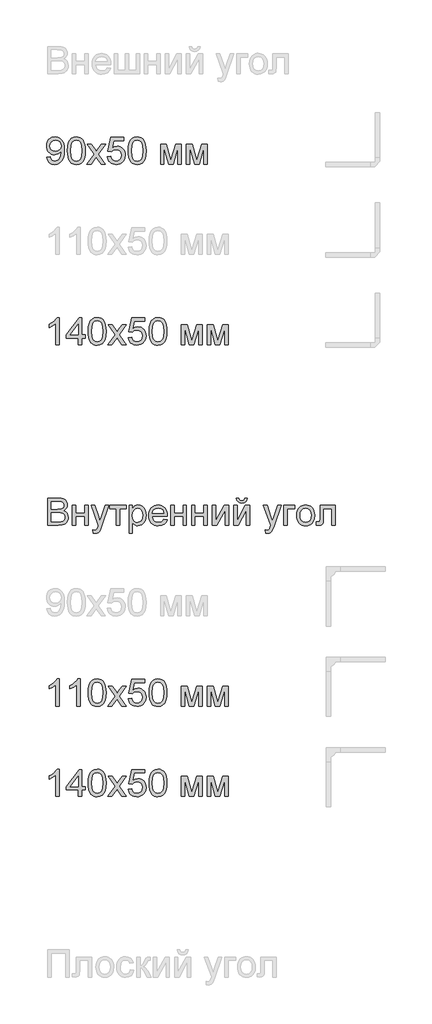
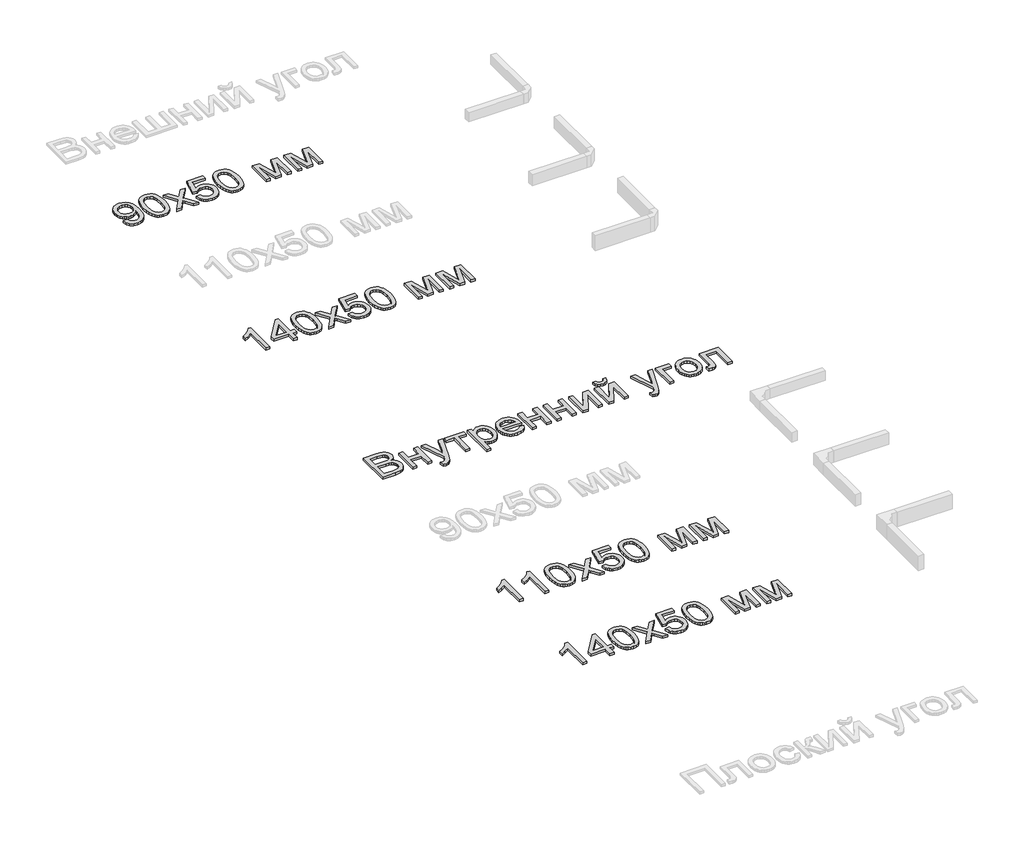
# One storey, part 88 of 168: 5 proxies.
"""IFC4 building model written with IfcOpenShell, lengths in millimetres."""

from ifc_helpers import new_model, si_unit, origin, origin_with_axes, place, context, project, spatial, polyline, outline, extrude, element, save

model = new_model("IFC4")

# Units and contexts
model_context = context("Model", 3, world=origin())
ifc_project = project(units=[si_unit("LENGTHUNIT", "METRE", prefix="MILLI")], contexts=[model_context])

# Site, building, storey
site = spatial("IfcSite", under=ifc_project)
building = spatial("IfcBuilding", under=site)
storey = spatial("IfcBuildingStorey", under=building, Name="Этаж 01", Elevation=0.0)

# Proxies
placement = place(None, origin())
element("IfcBuildingElementProxy", 1, Name="300 мм Arial 2", ObjectType="300 мм Arial 2", at=placement, inside=storey, context=model_context, shape_type="SweptSolid", body=[
    extrude(outline(polyline([(11069.3999525, -8073.063449), (11107.0710688, -8068.3545594), (11113.5090037, -8089.7377004), (11123.9936406, -8104.2966303), (11138.267462, -8112.6567487), (11156.0729505, -8115.4434548), (11172.0482262, -8113.6500301), (11186.5703679, -8108.2697559), (11198.6368974, -8099.8912435), (11207.2453361, -8089.1031039), (11219.5693829, -8056.3616064), (11225.0140364, -8012.6572253), (11224.7933072, -8005.2995854), (11211.7426935, -8021.2288758), (11194.6637718, -8033.8472283), (11174.7889471, -8042.0693909), (11153.3506238, -8044.8101117), (11135.455464, -8043.1362486), (11118.9996425, -8038.1146594), (11103.9831593, -8029.745344), (11090.4060144, -8018.0283025), (11079.1557231, -8003.5751386), (11071.1198008, -7986.9974562), (11066.2982474, -7968.2952553), (11064.6910629, -7947.4685358), (11066.3764223, -7925.9474391), (11071.4325005, -7906.6336343), (11079.8592975, -7889.5271216), (11091.6568132, -7874.6279008), (11105.9927147, -7862.5567728), (11122.0346689, -7853.9345385), (11139.782676, -7848.761198), (11159.2367357, -7847.0367511), (11187.3337231, -7850.9730885), (11212.9107188, -7862.7821005), (11234.3030568, -7881.8751761), (11249.8460711, -7907.6637039), (11259.3098354, -7943.3114693), (11262.4644236, -7991.9822572), (11259.3190325, -8043.5869041), (11249.8828593, -8083.4745094), (11234.2386775, -8113.447695), (11212.4692604, -8135.3090825), (11185.5127072, -8148.663199), (11154.307117, -8153.1145711), (11122.0990483, -8147.8630556), (11096.4024909, -8132.1085092), (11078.4314555, -8106.8442132), (11069.3999525, -8073.063449)]), holes=[polyline([(11224.7933072, -7946.585619), (11220.7282112, -7921.0546085), (11208.5329231, -7901.40971), (11189.6053944, -7888.8833281), (11165.3435768, -7884.7078674), (11140.1804484, -7889.2052248), (11120.020515, -7902.697297), (11106.7767632, -7923.344674), (11102.3621793, -7949.3079458), (11106.5376399, -7972.585679), (11119.0640218, -7991.0625522), (11138.7273145, -8003.1198846), (11164.3135072, -8007.1389954), (11188.3821868, -8003.1198846), (11207.7603709, -7991.0625522), (11220.5350732, -7971.9050973), (11224.7933072, -7946.585619)])]), origin_with_axes(), (0.0, 0.0, 1.0), 20.0),
    extrude(outline(polyline([(11295.4266503, -8000.1492375), (11298.1949623, -7951.9107109), (11306.4998984, -7913.4394512), (11320.258685, -7884.1468474), (11339.3885487, -7863.4442881), (11364.0274454, -7851.1386354), (11394.3133306, -7847.0367511), (11417.5266845, -7849.4647723), (11438.3120172, -7856.7488358), (11455.6944415, -7868.6038331), (11468.6990701, -7884.7446556), (11478.5215193, -7905.0333477), (11486.3574058, -7929.3319534), (11491.4893597, -7960.1880558), (11493.2000109, -8000.1492375), (11490.4592901, -8048.1118526), (11482.2371275, -8086.4911418), (11468.5611143, -8115.8113368), (11449.4588417, -8136.5966695), (11424.7647628, -8148.9850957), (11394.3133306, -8153.1145711), (11373.5647861, -8151.3211464), (11355.1706863, -8145.9408722), (11339.1310313, -8136.9737486), (11325.4458211, -8124.4197755), (11312.3124339, -8101.7260549), (11302.931443, -8073.4497251), (11297.3028485, -8039.5907859), (11295.4266503, -8000.1492375)]), holes=[polyline([(11333.0977666, -8000.0756611), (11337.5123506, -8059.3322535), (11343.0305805, -8079.6002522), (11350.7561024, -8093.6280525), (11370.4745773, -8109.9896042), (11394.3133306, -8115.4434548), (11418.1520839, -8109.9712101), (11437.8705589, -8093.5544761), (11445.5960808, -8079.5036831), (11451.1143107, -8059.240283), (11455.5288946, -8000.0756611), (11451.2614635, -7942.152641), (11445.9271745, -7921.9513209), (11438.45917, -7907.5901275), (11418.7774833, -7890.4284325), (11393.8718722, -7884.7078674), (11370.2906363, -7889.7478508), (11351.3447136, -7904.8678008), (11343.3616743, -7920.5027856), (11337.6595034, -7941.5824239), (11333.0977666, -8000.0756611)])]), origin_with_axes(), (0.0, 0.0, 1.0), 20.0),
    extrude(outline(polyline([(11512.0355691, -8148.4056816), (11592.5281496, -8037.1581662), (11516.7444586, -7927.0878733), (11562.0675204, -7927.0878733), (11598.6349907, -7980.0628806), (11615.7047153, -8005.0788562), (11630.4935715, -7984.6246173), (11672.1378134, -7927.0878733), (11717.4608752, -7927.0878733), (11637.8512114, -8037.1581662), (11714.5178192, -8148.4056816), (11669.1947574, -8148.4056816), (11623.0623552, -8081.5247348), (11614.6010693, -8069.3110526), (11557.3586309, -8148.4056816), (11512.0355691, -8148.4056816)])), origin_with_axes(), (0.0, 0.0, 1.0), 20.0),
    extrude(outline(polyline([(11738.0622669, -8068.3545594), (11775.7333832, -8063.6456699), (11782.6495647, -8086.2612155), (11794.7160942, -8102.4572204), (11811.8777893, -8112.1968962), (11834.0794677, -8115.4434548), (11861.0820061, -8110.9277033), (11881.3155158, -8097.3804488), (11893.9522624, -8076.3651899), (11898.1645112, -8049.4454249), (11894.2189768, -8024.0983554), (11882.3823736, -8004.7109743), (11862.5627311, -7992.4053215), (11834.6680789, -7988.3034373), (11816.3935407, -7989.9405121), (11801.5954875, -7994.8517368), (11780.4422728, -8011.847885), (11742.7711565, -8007.1389954), (11775.7333832, -7851.7456407), (11921.7089589, -7851.7456407), (11921.7089589, -7889.416757), (11806.1940124, -7889.416757), (11790.080781, -7972.4109351), (11816.991349, -7956.0769745), (11845.1895039, -7950.632321), (11863.5353192, -7952.3199796), (11880.3866138, -7957.3829556), (11895.7433878, -7965.8212488), (11909.6056413, -7977.6348594), (11921.0812603, -7992.1018189), (11929.278131, -8008.5001588), (11934.1962534, -8026.8298792), (11935.8356275, -8047.0909801), (11929.9311215, -8084.7620964), (11922.550489, -8101.5559095), (11912.2176034, -8116.9885592), (11896.5642245, -8132.7936894), (11878.2988835, -8144.0830681), (11857.4215803, -8150.8566954), (11833.9323149, -8153.1145711), (11796.9325832, -8147.3112326), (11781.2539124, -8140.0570595), (11767.4560383, -8129.9012172), (11755.9758208, -8117.3495434), (11747.2501197, -8102.9078758), (11738.0622669, -8068.3545594)])), origin_with_axes(), (0.0, 0.0, 1.0), 20.0),
    extrude(outline(polyline([(11968.7978543, -8000.1492375), (11971.5661663, -7951.9107109), (11979.8711023, -7913.4394512), (11993.629889, -7884.1468474), (12012.7597527, -7863.4442881), (12037.3986493, -7851.1386354), (12067.6845346, -7847.0367511), (12090.8978885, -7849.4647723), (12111.6832212, -7856.7488358), (12129.0656455, -7868.6038331), (12142.070274, -7884.7446556), (12151.8927233, -7905.0333477), (12159.7286098, -7929.3319534), (12164.8605636, -7960.1880558), (12166.5712149, -8000.1492375), (12163.830494, -8048.1118526), (12155.6083314, -8086.4911418), (12141.9323183, -8115.8113368), (12122.8300457, -8136.5966695), (12098.1359667, -8148.9850957), (12067.6845346, -8153.1145711), (12046.9359901, -8151.3211464), (12028.5418903, -8145.9408722), (12012.5022353, -8136.9737486), (11998.8170251, -8124.4197755), (11985.6836379, -8101.7260549), (11976.302647, -8073.4497251), (11970.6740525, -8039.5907859), (11968.7978543, -8000.1492375)]), holes=[polyline([(12006.4689706, -8000.0756611), (12010.8835545, -8059.3322535), (12016.4017845, -8079.6002522), (12024.1273064, -8093.6280525), (12043.8457813, -8109.9896042), (12067.6845346, -8115.4434548), (12091.5232879, -8109.9712101), (12111.2417628, -8093.5544761), (12118.9672847, -8079.5036831), (12124.4855147, -8059.240283), (12128.9000986, -8000.0756611), (12124.6326675, -7942.152641), (12119.2983785, -7921.9513209), (12111.830374, -7907.5901275), (12092.1486873, -7890.4284325), (12067.2430762, -7884.7078674), (12043.6618403, -7889.7478508), (12024.7159176, -7904.8678008), (12016.7328783, -7920.5027856), (12011.0307073, -7941.5824239), (12006.4689706, -8000.0756611)])]), origin_with_axes(), (0.0, 0.0, 1.0), 20.0),
    extrude(outline(polyline([(12326.6734592, -7927.0878733), (12391.4942668, -7927.0878733), (12441.4526417, -8104.2598421), (12495.3105658, -7927.0878733), (12557.4090466, -7927.0878733), (12557.4090466, -8148.4056816), (12519.7379303, -8148.4056816), (12519.7379303, -7970.2036431), (12465.5857006, -8148.4056816), (12416.1423604, -8148.4056816), (12364.3445755, -7961.6687808), (12364.3445755, -8148.4056816), (12326.6734592, -8148.4056816), (12326.6734592, -7927.0878733)])), origin_with_axes(), (0.0, 0.0, 1.0), 20.0),
    extrude(outline(polyline([(12613.915721, -7927.0878733), (12678.7365286, -7927.0878733), (12728.6949035, -8104.2598421), (12782.5528276, -7927.0878733), (12844.6513084, -7927.0878733), (12844.6513084, -8148.4056816), (12806.9801921, -8148.4056816), (12806.9801921, -7970.2036431), (12752.8279624, -8148.4056816), (12703.3846223, -8148.4056816), (12651.5868373, -7961.6687808), (12651.5868373, -8148.4056816), (12613.915721, -8148.4056816), (12613.915721, -7927.0878733)])), origin_with_axes(), (0.0, 0.0, 1.0), 20.0),
])
element("IfcBuildingElementProxy", 2, Name="300 мм Arial 2", ObjectType="300 мм Arial 2", at=placement, inside=storey, context=model_context, shape_type="SweptSolid", body=[
    extrude(outline(polyline([(11205.9577491, -10148.4056816), (11168.2866328, -10148.4056816), (11168.2866328, -9913.5498158), (11132.6020793, -9938.9704617), (11092.9444002, -9957.9899609), (11092.9444002, -9922.3789837), (11122.5313096, -9906.2841464), (11148.1634877, -9887.1358886), (11168.3694062, -9866.7736202), (11181.6775374, -9847.0367511), (11205.9577491, -9847.0367511), (11205.9577491, -10148.4056816)])), origin_with_axes(), (0.0, 0.0, 1.0), 20.0),
    extrude(outline(polyline([(11417.8577783, -10148.4056816), (11417.8577783, -10077.7723385), (11281.2999817, -10077.7723385), (11281.2999817, -10040.1012222), (11427.2755574, -9851.7456407), (11455.5288946, -9851.7456407), (11455.5288946, -10040.1012222), (11493.2000109, -10040.1012222), (11493.2000109, -10077.7723385), (11455.5288946, -10077.7723385), (11455.5288946, -10148.4056816), (11417.8577783, -10148.4056816)]), holes=[polyline([(11417.8577783, -10040.1012222), (11417.8577783, -9923.7033589), (11327.6531131, -10040.1012222), (11417.8577783, -10040.1012222)])]), origin_with_axes(), (0.0, 0.0, 1.0), 20.0),
    extrude(outline(polyline([(11526.1622377, -10000.1492375), (11528.9305497, -9951.9107109), (11537.2354858, -9913.4394512), (11550.9942724, -9884.1468474), (11570.1241361, -9863.4442881), (11594.7630327, -9851.1386354), (11625.048918, -9847.0367511), (11648.2622719, -9849.4647723), (11669.0476046, -9856.7488358), (11686.4300289, -9868.6038331), (11699.4346574, -9884.7446556), (11709.2571067, -9905.0333477), (11717.0929932, -9929.3319534), (11722.224947, -9960.1880558), (11723.9355983, -10000.1492375), (11721.1948774, -10048.1118526), (11712.9727148, -10086.4911418), (11699.2967017, -10115.8113368), (11680.1944291, -10136.5966695), (11655.5003502, -10148.9850957), (11625.048918, -10153.1145711), (11604.3003735, -10151.3211464), (11585.9062737, -10145.9408722), (11569.8666187, -10136.9737486), (11556.1814085, -10124.4197755), (11543.0480213, -10101.7260549), (11533.6670304, -10073.4497251), (11528.0384359, -10039.5907859), (11526.1622377, -10000.1492375)]), holes=[polyline([(11563.833354, -10000.0756611), (11568.2479379, -10059.3322535), (11573.7661679, -10079.6002522), (11581.4916898, -10093.6280525), (11601.2101647, -10109.9896042), (11625.048918, -10115.4434548), (11648.8876713, -10109.9712101), (11668.6061462, -10093.5544761), (11676.3316681, -10079.5036831), (11681.8498981, -10059.240283), (11686.264482, -10000.0756611), (11681.9970509, -9942.152641), (11676.6627619, -9921.9513209), (11669.1947574, -9907.5901275), (11649.5130707, -9890.4284325), (11624.6074596, -9884.7078674), (11601.0262237, -9889.7478508), (11582.080301, -9904.8678008), (11574.0972617, -9920.5027856), (11568.3950907, -9941.5824239), (11563.833354, -10000.0756611)])]), origin_with_axes(), (0.0, 0.0, 1.0), 20.0),
    extrude(outline(polyline([(11742.7711565, -10148.4056816), (11823.263737, -10037.1581662), (11747.480046, -9927.0878733), (11792.8031078, -9927.0878733), (11829.3705781, -9980.0628806), (11846.4403027, -10005.0788562), (11861.2291589, -9984.6246173), (11902.8734008, -9927.0878733), (11948.1964626, -9927.0878733), (11868.5867988, -10037.1581662), (11945.2534066, -10148.4056816), (11899.9303448, -10148.4056816), (11853.7979426, -10081.5247348), (11845.3366567, -10069.3110526), (11788.0942183, -10148.4056816), (11742.7711565, -10148.4056816)])), origin_with_axes(), (0.0, 0.0, 1.0), 20.0),
    extrude(outline(polyline([(11968.7978543, -10068.3545594), (12006.4689706, -10063.6456699), (12013.3851521, -10086.2612155), (12025.4516816, -10102.4572204), (12042.6133766, -10112.1968962), (12064.815055, -10115.4434548), (12091.8175935, -10110.9277033), (12112.0511032, -10097.3804488), (12124.6878498, -10076.3651899), (12128.9000986, -10049.4454249), (12124.9545642, -10024.0983554), (12113.117961, -10004.7109743), (12093.2983185, -9992.4053215), (12065.4036662, -9988.3034373), (12047.1291281, -9989.9405121), (12032.3310749, -9994.8517368), (12011.1778601, -10011.847885), (11973.5067438, -10007.1389954), (12006.4689706, -9851.7456407), (12152.4445463, -9851.7456407), (12152.4445463, -9889.416757), (12036.9295998, -9889.416757), (12020.8163684, -9972.4109351), (12047.7269364, -9956.0769745), (12075.9250913, -9950.632321), (12094.2709065, -9952.3199796), (12111.1222012, -9957.3829556), (12126.4789752, -9965.8212488), (12140.3412286, -9977.6348594), (12151.8168476, -9992.1018189), (12160.0137183, -10008.5001588), (12164.9318408, -10026.8298792), (12166.5712149, -10047.0909801), (12160.6667089, -10084.7620964), (12153.2860764, -10101.5559095), (12142.9531908, -10116.9885592), (12127.2998119, -10132.7936894), (12109.0344709, -10144.0830681), (12088.1571676, -10150.8566954), (12064.6679022, -10153.1145711), (12027.6681706, -10147.3112326), (12011.9894998, -10140.0570595), (11998.1916257, -10129.9012172), (11986.7114082, -10117.3495434), (11977.9857071, -10102.9078758), (11968.7978543, -10068.3545594)])), origin_with_axes(), (0.0, 0.0, 1.0), 20.0),
    extrude(outline(polyline([(12199.5334417, -10000.1492375), (12202.3017537, -9951.9107109), (12210.6066897, -9913.4394512), (12224.3654763, -9884.1468474), (12243.4953401, -9863.4442881), (12268.1342367, -9851.1386354), (12298.420122, -9847.0367511), (12321.6334759, -9849.4647723), (12342.4188086, -9856.7488358), (12359.8012329, -9868.6038331), (12372.8058614, -9884.7446556), (12382.6283107, -9905.0333477), (12390.4641972, -9929.3319534), (12395.596151, -9960.1880558), (12397.3068023, -10000.1492375), (12394.5660814, -10048.1118526), (12386.3439188, -10086.4911418), (12372.6679056, -10115.8113368), (12353.565633, -10136.5966695), (12328.8715541, -10148.9850957), (12298.420122, -10153.1145711), (12277.6715774, -10151.3211464), (12259.2774777, -10145.9408722), (12243.2378227, -10136.9737486), (12229.5526125, -10124.4197755), (12216.4192252, -10101.7260549), (12207.0382344, -10073.4497251), (12201.4096398, -10039.5907859), (12199.5334417, -10000.1492375)]), holes=[polyline([(12237.204558, -10000.0756611), (12241.6191419, -10059.3322535), (12247.1373718, -10079.6002522), (12254.8628937, -10093.6280525), (12274.5813687, -10109.9896042), (12298.420122, -10115.4434548), (12322.2588753, -10109.9712101), (12341.9773502, -10093.5544761), (12349.7028721, -10079.5036831), (12355.221102, -10059.240283), (12359.635686, -10000.0756611), (12355.3682548, -9942.152641), (12350.0339659, -9921.9513209), (12342.5659614, -9907.5901275), (12322.8842747, -9890.4284325), (12297.9786636, -9884.7078674), (12274.3974277, -9889.7478508), (12255.4515049, -9904.8678008), (12247.4684656, -9920.5027856), (12241.7662947, -9941.5824239), (12237.204558, -10000.0756611)])]), origin_with_axes(), (0.0, 0.0, 1.0), 20.0),
    extrude(outline(polyline([(12557.4090466, -9927.0878733), (12622.2298541, -9927.0878733), (12672.1882291, -10104.2598421), (12726.0461532, -9927.0878733), (12788.144634, -9927.0878733), (12788.144634, -10148.4056816), (12750.4735176, -10148.4056816), (12750.4735176, -9970.2036431), (12696.321288, -10148.4056816), (12646.8779478, -10148.4056816), (12595.0801629, -9961.6687808), (12595.0801629, -10148.4056816), (12557.4090466, -10148.4056816), (12557.4090466, -9927.0878733)])), origin_with_axes(), (0.0, 0.0, 1.0), 20.0),
    extrude(outline(polyline([(12844.6513084, -9927.0878733), (12909.472116, -9927.0878733), (12959.4304909, -10104.2598421), (13013.288415, -9927.0878733), (13075.3868958, -9927.0878733), (13075.3868958, -10148.4056816), (13037.7157795, -10148.4056816), (13037.7157795, -9970.2036431), (12983.5635498, -10148.4056816), (12934.1202096, -10148.4056816), (12882.3224247, -9961.6687808), (12882.3224247, -10148.4056816), (12844.6513084, -10148.4056816), (12844.6513084, -9927.0878733)])), origin_with_axes(), (0.0, 0.0, 1.0), 20.0),
])
element("IfcBuildingElementProxy", 3, Name="300 мм Arial 2", ObjectType="300 мм Arial 2", at=placement, inside=storey, context=model_context, shape_type="SweptSolid", body=[
    extrude(outline(polyline([(11078.8177316, -12148.4056816), (11078.8177316, -11847.0367511), (11193.8176433, -11847.0367511), (11225.4462978, -11849.2532401), (11250.1403767, -11855.9027072), (11269.0679054, -11867.1506992), (11283.3969091, -11883.162763), (11292.419215, -11901.9983212), (11295.4266503, -11921.7167961), (11292.8974616, -11939.8625756), (11285.3098955, -11956.9231031), (11272.6087696, -11971.849915), (11254.7389017, -11983.5945477), (11276.0852544, -11994.7413722), (11291.858195, -12011.7007322), (11301.5978708, -12033.3505876), (11304.8444294, -12058.5688983), (11302.6279404, -12079.5841573), (11295.9784733, -12099.072706), (11286.0548565, -12115.6457899), (11274.0159182, -12127.9146544), (11259.2730472, -12136.7990046), (11241.2376324, -12143.2185454), (11192.9347265, -12148.4056816), (11078.8177316, -12148.4056816)]), holes=[polyline([(11116.4888479, -11969.4678791), (11185.282781, -11969.4678791), (11225.4554948, -11966.2305176), (11239.5177841, -11960.6479083), (11249.6253419, -11952.2877899), (11255.722986, -11941.2789212), (11257.755534, -11927.7500609), (11255.8609417, -11914.6166736), (11250.1771649, -11903.1755436), (11240.9617209, -11894.2452082), (11228.4721272, -11888.6442048), (11180.0588566, -11884.7078674), (11116.4888479, -11884.7078674), (11116.4888479, -11969.4678791)]), polyline([(11116.4888479, -12110.7345653), (11193.7440669, -12110.7345653), (11221.7030985, -12109.2630373), (11245.3579108, -12101.0592688), (11261.0296838, -12084.320638), (11265.6374058, -12072.4932319), (11267.1733131, -12058.9367803), (11265.3706913, -12043.1914309), (11259.962826, -12029.6533735), (11250.5174558, -12019.0675691), (11236.6023193, -12012.1789788), (11216.8930414, -12008.3989913), (11190.0652469, -12007.1389954), (11116.4888479, -12007.1389954), (11116.4888479, -12110.7345653)])]), origin_with_axes(), (0.0, 0.0, 1.0), 20.0),
    extrude(outline(polyline([(11351.9333248, -11927.0878733), (11389.6044411, -11927.0878733), (11389.6044411, -12011.847885), (11488.4911214, -12011.847885), (11488.4911214, -11927.0878733), (11526.1622377, -11927.0878733), (11526.1622377, -12148.4056816), (11488.4911214, -12148.4056816), (11488.4911214, -12049.5190013), (11389.6044411, -12049.5190013), (11389.6044411, -12148.4056816), (11351.9333248, -12148.4056816), (11351.9333248, -11927.0878733)])), origin_with_axes(), (0.0, 0.0, 1.0), 20.0),
    extrude(outline(polyline([(11582.6689122, -12233.1656933), (11577.9600226, -12196.8925285), (11597.0898864, -12200.2034665), (11614.9689513, -12196.0463999), (11625.9318348, -12184.4581171), (11636.2325307, -12156.7198147), (11639.1755866, -12147.5963412), (11559.1244645, -11927.0878733), (11598.8557199, -11927.0878733), (11641.3093022, -12049.9604597), (11656.0981584, -12099.1094942), (11670.8870146, -12055.6994188), (11714.5178192, -11927.0878733), (11753.9547691, -11927.0878733), (11676.9202793, -12153.7031823), (11656.9074988, -12202.8522169), (11646.6619852, -12218.5423839), (11635.0553083, -12229.4132969), (11621.5724331, -12235.7592613), (11605.6983251, -12237.8745828), (11582.6689122, -12233.1656933)])), origin_with_axes(), (0.0, 0.0, 1.0), 20.0),
    extrude(outline(polyline([(11766.3156041, -11927.0878733), (11945.2534066, -11927.0878733), (11945.2534066, -11964.7589896), (11874.6200635, -11964.7589896), (11874.6200635, -12148.4056816), (11836.9489472, -12148.4056816), (11836.9489472, -11964.7589896), (11766.3156041, -11964.7589896), (11766.3156041, -11927.0878733)])), origin_with_axes(), (0.0, 0.0, 1.0), 20.0),
    extrude(outline(polyline([(11978.2156334, -12233.1656933), (11978.2156334, -11927.0878733), (12015.8867497, -11927.0878733), (12015.8867497, -11964.0232256), (12028.1740083, -11945.8038698), (12041.9327949, -11932.7900442), (12057.9724499, -11924.9817488), (12077.1023137, -11922.3789837), (12102.5781418, -11926.0210155), (12124.8533966, -11936.9471107), (12142.989979, -11954.4950819), (12156.0497898, -11978.0027414), (12163.9408586, -12005.7594379), (12166.5712149, -12036.0545202), (12163.6005678, -12068.271786), (12154.6886265, -12097.0861432), (12140.1204994, -12121.0352611), (12120.1812953, -12138.6568087), (12096.9587444, -12149.5001305), (12072.5405769, -12153.1145711), (12055.222532, -12150.695747), (12039.7622912, -12143.4392746), (12026.5277364, -12132.4855882), (12015.8867497, -12118.975122), (12015.8867497, -12233.1656933), (11978.2156334, -12233.1656933)]), holes=[polyline([(12015.8867497, -12039.512611), (12019.9610428, -12073.2841782), (12032.1839221, -12096.9022022), (12050.2193369, -12110.8081417), (12071.7312365, -12115.4434548), (12093.5926241, -12110.6425948), (12112.0878914, -12096.2400147), (12124.6970468, -12071.7574679), (12128.9000986, -12036.7167078), (12124.7982143, -12003.1290817), (12112.4925616, -11979.1799638), (12094.4847379, -11964.832566), (12073.2763409, -11960.0501), (12051.9851705, -11965.1360686), (12033.287568, -11980.3939744), (12020.2369543, -12005.3455707), (12015.8867497, -12039.512611)])]), origin_with_axes(), (0.0, 0.0, 1.0), 20.0),
    extrude(outline(polyline([(12363.9031171, -12082.481228), (12400.8384694, -12087.1901176), (12387.5303383, -12115.0203905), (12366.2943501, -12135.8241173), (12337.6087515, -12148.7919577), (12301.9517891, -12153.1145711), (12278.5774869, -12151.2498692), (12257.7507674, -12145.6557637), (12239.4716308, -12136.3322543), (12223.740077, -12123.2793413), (12211.0895348, -12106.860308), (12202.0534333, -12087.4384379), (12196.6317724, -12065.013731), (12194.8245521, -12039.5861874), (12196.6501665, -12013.2964203), (12202.1270097, -11990.1244531), (12211.2550817, -11970.0702859), (12224.0343825, -11953.1339185), (12239.7245496, -11939.6786346), (12257.5852205, -11930.0677174), (12277.6163951, -11924.3011672), (12299.8180736, -11922.3789837), (12321.3046813, -11924.2965686), (12340.7357485, -11930.0493233), (12358.111275, -11939.6372478), (12373.4312608, -11953.0603421), (12385.9369494, -11969.9599213), (12394.8695841, -11989.9773003), (12400.2291649, -12013.1124793), (12402.0156918, -12039.3654582), (12401.7949626, -12049.5190013), (12232.4956684, -12049.5190013), (12239.0163768, -12077.7171562), (12254.163918, -12098.4473066), (12276.0253055, -12111.1944178), (12302.6875531, -12115.4434548), (12322.7371219, -12113.4752861), (12339.6229054, -12107.5707801), (12353.3449039, -12097.3620547), (12363.9031171, -12082.481228)]), holes=[polyline([(12232.4956684, -12011.847885), (12364.3445755, -12011.847885), (12359.2494099, -11991.945469), (12349.2614137, -11977.7084358), (12327.2988586, -11964.464684), (12299.6709208, -11960.0501), (12274.277866, -11963.5725701), (12253.2810012, -11974.1399805), (12238.685283, -11990.6118968), (12232.4956684, -12011.847885)])]), origin_with_axes(), (0.0, 0.0, 1.0), 20.0),
    extrude(outline(polyline([(12439.6868081, -11927.0878733), (12477.3579244, -11927.0878733), (12477.3579244, -12011.847885), (12576.2446047, -12011.847885), (12576.2446047, -11927.0878733), (12613.915721, -11927.0878733), (12613.915721, -12148.4056816), (12576.2446047, -12148.4056816), (12576.2446047, -12049.5190013), (12477.3579244, -12049.5190013), (12477.3579244, -12148.4056816), (12439.6868081, -12148.4056816), (12439.6868081, -11927.0878733)])), origin_with_axes(), (0.0, 0.0, 1.0), 20.0),
    extrude(outline(polyline([(12670.4223955, -11927.0878733), (12708.0935118, -11927.0878733), (12708.0935118, -12011.847885), (12806.9801921, -12011.847885), (12806.9801921, -11927.0878733), (12844.6513084, -11927.0878733), (12844.6513084, -12148.4056816), (12806.9801921, -12148.4056816), (12806.9801921, -12049.5190013), (12708.0935118, -12049.5190013), (12708.0935118, -12148.4056816), (12670.4223955, -12148.4056816), (12670.4223955, -11927.0878733)])), origin_with_axes(), (0.0, 0.0, 1.0), 20.0),
    extrude(outline(polyline([(12901.1579829, -11927.0878733), (12938.8290992, -11927.0878733), (12938.8290992, -12095.8721327), (13031.3882092, -11927.0878733), (13080.0957853, -11927.0878733), (13080.0957853, -12148.4056816), (13042.424669, -12148.4056816), (13042.424669, -11980.6514918), (12950.4541702, -12148.4056816), (12901.1579829, -12148.4056816), (12901.1579829, -11927.0878733)])), origin_with_axes(), (0.0, 0.0, 1.0), 20.0),
    extrude(outline(polyline([(13259.0335878, -11847.0367511), (13287.286925, -11847.0367511), (13281.207675, -11871.160613), (13269.0031898, -11888.9385104), (13251.2252924, -11899.8921968), (13228.4258058, -11903.5434256), (13203.6857416, -11899.9197879), (13184.5006956, -11889.048875), (13171.3857024, -11871.2985687), (13164.855797, -11847.0367511), (13193.1091342, -11847.0367511), (13197.0822598, -11859.4435714), (13203.7041357, -11868.2635422), (13213.0115502, -11873.5334518), (13225.0412914, -11875.2900883), (13238.616137, -11873.5886341), (13248.4385863, -11868.4842714), (13255.0604622, -11859.7194829), (13259.0335878, -11847.0367511)])), origin_with_axes(), (0.0, 0.0, 1.0), 20.0),
    extrude(outline(polyline([(13136.6024598, -11927.0878733), (13174.2735761, -11927.0878733), (13174.2735761, -12095.8721327), (13266.8326861, -11927.0878733), (13315.5402622, -11927.0878733), (13315.5402622, -12148.4056816), (13277.8691459, -12148.4056816), (13277.8691459, -11980.6514918), (13185.8986471, -12148.4056816), (13136.6024598, -12148.4056816), (13136.6024598, -11927.0878733)])), origin_with_axes(), (0.0, 0.0, 1.0), 20.0),
    extrude(outline(polyline([(13489.7691752, -12233.1656933), (13485.0602856, -12196.8925285), (13504.1901494, -12200.2034665), (13522.0692143, -12196.0463999), (13533.0320978, -12184.4581171), (13543.3327937, -12156.7198147), (13546.2758496, -12147.5963412), (13466.2247275, -11927.0878733), (13505.9559829, -11927.0878733), (13548.4095652, -12049.9604597), (13563.1984214, -12099.1094942), (13577.9872776, -12055.6994188), (13621.6180822, -11927.0878733), (13661.0550321, -11927.0878733), (13584.0205423, -12153.7031823), (13564.0077618, -12202.8522169), (13553.7622482, -12218.5423839), (13542.1555713, -12229.4132969), (13528.6726961, -12235.7592613), (13512.7985881, -12237.8745828), (13489.7691752, -12233.1656933)])), origin_with_axes(), (0.0, 0.0, 1.0), 20.0),
    extrude(outline(polyline([(13692.2514253, -11927.0878733), (13814.6825533, -11927.0878733), (13814.6825533, -11964.7589896), (13729.9225416, -11964.7589896), (13729.9225416, -12148.4056816), (13692.2514253, -12148.4056816), (13692.2514253, -11927.0878733)])), origin_with_axes(), (0.0, 0.0, 1.0), 20.0),
    extrude(outline(polyline([(13833.5181114, -12037.7467774), (13835.555258, -12009.0841715), (13841.6666976, -11984.385494), (13851.8524304, -11963.6507451), (13866.1124562, -11946.8799246), (13880.4690511, -11936.160763), (13896.315568, -11928.504219), (13913.652007, -11923.9102925), (13932.4783681, -11922.3789837), (13953.2614016, -11924.2436856), (13972.0532738, -11929.8377912), (13988.8539846, -11939.1613005), (14003.6635342, -11952.2142135), (14015.750757, -11968.5550719), (14024.3844876, -11987.7424172), (14029.5647259, -12009.7762495), (14031.2914721, -12034.6565687), (14028.2380515, -12072.7139611), (14019.0777898, -12101.6846682), (14004.0774015, -12123.3805088), (13983.5036009, -12139.6133019), (13959.0670394, -12149.7392538), (13932.4783681, -12153.1145711), (13911.391832, -12151.256767), (13892.4252159, -12145.6833548), (13875.5785198, -12136.3943344), (13860.8517437, -12123.3897059), (13848.8932796, -12106.8901984), (13840.3515195, -12087.1165412), (13835.2264635, -12064.0687342), (13833.5181114, -12037.7467774)]), holes=[polyline([(13871.1892278, -12037.673201), (13875.5486294, -12071.7666649), (13888.6268343, -12096.0560737), (13908.3085211, -12110.5966095), (13932.4783681, -12115.4434548), (13956.5378506, -12110.5690184), (13976.1827492, -12095.9457091), (13989.2609541, -12071.3344036), (13993.6203557, -12036.4959786), (13989.233363, -12003.3957961), (13976.0723846, -11979.4374812), (13956.3998949, -11964.8969453), (13932.4783681, -11960.0501), (13908.3085211, -11964.8785512), (13888.6268343, -11979.3639048), (13875.5486294, -12003.5981312), (13871.1892278, -12037.673201)])]), origin_with_axes(), (0.0, 0.0, 1.0), 20.0),
    extrude(outline(polyline([(14092.5070361, -11927.0878733), (14262.0270594, -11927.0878733), (14262.0270594, -12148.1849524), (14224.3559431, -12148.1849524), (14224.3559431, -11964.7589896), (14130.1781524, -11964.7589896), (14130.1781524, -12070.3411222), (14127.6397666, -12119.0486984), (14122.8848918, -12130.0759612), (14113.697039, -12139.6133019), (14099.7543114, -12146.2075866), (14080.7348122, -12148.4056816), (14050.1270302, -12146.4926952), (14050.1270302, -12110.7345653), (14066.9760256, -12110.7345653), (14084.008962, -12108.4169087), (14090.8147789, -12101.0592688), (14092.5070361, -12068.2074066), (14092.5070361, -11927.0878733)])), origin_with_axes(), (0.0, 0.0, 1.0), 20.0),
])
element("IfcBuildingElementProxy", 4, Name="300 мм Arial 2", ObjectType="300 мм Arial 2", at=placement, inside=storey, context=model_context, shape_type="SweptSolid", body=[
    extrude(outline(polyline([(11205.9577491, -14148.4056816), (11168.2866328, -14148.4056816), (11168.2866328, -13913.5498158), (11132.6020793, -13938.9704617), (11092.9444002, -13957.9899609), (11092.9444002, -13922.3789837), (11122.5313096, -13906.2841464), (11148.1634877, -13887.1358886), (11168.3694062, -13866.7736202), (11181.6775374, -13847.0367511), (11205.9577491, -13847.0367511), (11205.9577491, -14148.4056816)])), origin_with_axes(), (0.0, 0.0, 1.0), 20.0),
    extrude(outline(polyline([(11436.6933365, -14148.4056816), (11399.0222202, -14148.4056816), (11399.0222202, -13913.5498158), (11363.3376666, -13938.9704617), (11323.6799876, -13957.9899609), (11323.6799876, -13922.3789837), (11353.266897, -13906.2841464), (11378.899075, -13887.1358886), (11399.1049936, -13866.7736202), (11412.4131248, -13847.0367511), (11436.6933365, -13847.0367511), (11436.6933365, -14148.4056816)])), origin_with_axes(), (0.0, 0.0, 1.0), 20.0),
    extrude(outline(polyline([(11526.1622377, -14000.1492375), (11528.9305497, -13951.9107109), (11537.2354858, -13913.4394512), (11550.9942724, -13884.1468474), (11570.1241361, -13863.4442881), (11594.7630327, -13851.1386354), (11625.048918, -13847.0367511), (11648.2622719, -13849.4647723), (11669.0476046, -13856.7488358), (11686.4300289, -13868.6038331), (11699.4346574, -13884.7446556), (11709.2571067, -13905.0333477), (11717.0929932, -13929.3319534), (11722.224947, -13960.1880558), (11723.9355983, -14000.1492375), (11721.1948774, -14048.1118526), (11712.9727148, -14086.4911418), (11699.2967017, -14115.8113368), (11680.1944291, -14136.5966695), (11655.5003502, -14148.9850957), (11625.048918, -14153.1145711), (11604.3003735, -14151.3211464), (11585.9062737, -14145.9408722), (11569.8666187, -14136.9737486), (11556.1814085, -14124.4197755), (11543.0480213, -14101.7260549), (11533.6670304, -14073.4497251), (11528.0384359, -14039.5907859), (11526.1622377, -14000.1492375)]), holes=[polyline([(11563.833354, -14000.0756611), (11568.2479379, -14059.3322535), (11573.7661679, -14079.6002522), (11581.4916898, -14093.6280525), (11601.2101647, -14109.9896042), (11625.048918, -14115.4434548), (11648.8876713, -14109.9712101), (11668.6061462, -14093.5544761), (11676.3316681, -14079.5036831), (11681.8498981, -14059.240283), (11686.264482, -14000.0756611), (11681.9970509, -13942.152641), (11676.6627619, -13921.9513209), (11669.1947574, -13907.5901275), (11649.5130707, -13890.4284325), (11624.6074596, -13884.7078674), (11601.0262237, -13889.7478508), (11582.080301, -13904.8678008), (11574.0972617, -13920.5027856), (11568.3950907, -13941.5824239), (11563.833354, -14000.0756611)])]), origin_with_axes(), (0.0, 0.0, 1.0), 20.0),
    extrude(outline(polyline([(11742.7711565, -14148.4056816), (11823.263737, -14037.1581662), (11747.480046, -13927.0878733), (11792.8031078, -13927.0878733), (11829.3705781, -13980.0628806), (11846.4403027, -14005.0788562), (11861.2291589, -13984.6246173), (11902.8734008, -13927.0878733), (11948.1964626, -13927.0878733), (11868.5867988, -14037.1581662), (11945.2534066, -14148.4056816), (11899.9303448, -14148.4056816), (11853.7979426, -14081.5247348), (11845.3366567, -14069.3110526), (11788.0942183, -14148.4056816), (11742.7711565, -14148.4056816)])), origin_with_axes(), (0.0, 0.0, 1.0), 20.0),
    extrude(outline(polyline([(11968.7978543, -14068.3545594), (12006.4689706, -14063.6456699), (12013.3851521, -14086.2612155), (12025.4516816, -14102.4572204), (12042.6133766, -14112.1968962), (12064.815055, -14115.4434548), (12091.8175935, -14110.9277033), (12112.0511032, -14097.3804488), (12124.6878498, -14076.3651899), (12128.9000986, -14049.4454249), (12124.9545642, -14024.0983554), (12113.117961, -14004.7109743), (12093.2983185, -13992.4053215), (12065.4036662, -13988.3034373), (12047.1291281, -13989.9405121), (12032.3310749, -13994.8517368), (12011.1778601, -14011.847885), (11973.5067438, -14007.1389954), (12006.4689706, -13851.7456407), (12152.4445463, -13851.7456407), (12152.4445463, -13889.416757), (12036.9295998, -13889.416757), (12020.8163684, -13972.4109351), (12047.7269364, -13956.0769745), (12075.9250913, -13950.632321), (12094.2709065, -13952.3199796), (12111.1222012, -13957.3829556), (12126.4789752, -13965.8212488), (12140.3412286, -13977.6348594), (12151.8168476, -13992.1018189), (12160.0137183, -14008.5001588), (12164.9318408, -14026.8298792), (12166.5712149, -14047.0909801), (12160.6667089, -14084.7620964), (12153.2860764, -14101.5559095), (12142.9531908, -14116.9885592), (12127.2998119, -14132.7936894), (12109.0344709, -14144.0830681), (12088.1571676, -14150.8566954), (12064.6679022, -14153.1145711), (12027.6681706, -14147.3112326), (12011.9894998, -14140.0570595), (11998.1916257, -14129.9012172), (11986.7114082, -14117.3495434), (11977.9857071, -14102.9078758), (11968.7978543, -14068.3545594)])), origin_with_axes(), (0.0, 0.0, 1.0), 20.0),
    extrude(outline(polyline([(12199.5334417, -14000.1492375), (12202.3017537, -13951.9107109), (12210.6066897, -13913.4394512), (12224.3654763, -13884.1468474), (12243.4953401, -13863.4442881), (12268.1342367, -13851.1386354), (12298.420122, -13847.0367511), (12321.6334759, -13849.4647723), (12342.4188086, -13856.7488358), (12359.8012329, -13868.6038331), (12372.8058614, -13884.7446556), (12382.6283107, -13905.0333477), (12390.4641972, -13929.3319534), (12395.596151, -13960.1880558), (12397.3068023, -14000.1492375), (12394.5660814, -14048.1118526), (12386.3439188, -14086.4911418), (12372.6679056, -14115.8113368), (12353.565633, -14136.5966695), (12328.8715541, -14148.9850957), (12298.420122, -14153.1145711), (12277.6715774, -14151.3211464), (12259.2774777, -14145.9408722), (12243.2378227, -14136.9737486), (12229.5526125, -14124.4197755), (12216.4192252, -14101.7260549), (12207.0382344, -14073.4497251), (12201.4096398, -14039.5907859), (12199.5334417, -14000.1492375)]), holes=[polyline([(12237.204558, -14000.0756611), (12241.6191419, -14059.3322535), (12247.1373718, -14079.6002522), (12254.8628937, -14093.6280525), (12274.5813687, -14109.9896042), (12298.420122, -14115.4434548), (12322.2588753, -14109.9712101), (12341.9773502, -14093.5544761), (12349.7028721, -14079.5036831), (12355.221102, -14059.240283), (12359.635686, -14000.0756611), (12355.3682548, -13942.152641), (12350.0339659, -13921.9513209), (12342.5659614, -13907.5901275), (12322.8842747, -13890.4284325), (12297.9786636, -13884.7078674), (12274.3974277, -13889.7478508), (12255.4515049, -13904.8678008), (12247.4684656, -13920.5027856), (12241.7662947, -13941.5824239), (12237.204558, -14000.0756611)])]), origin_with_axes(), (0.0, 0.0, 1.0), 20.0),
    extrude(outline(polyline([(12557.4090466, -13927.0878733), (12622.2298541, -13927.0878733), (12672.1882291, -14104.2598421), (12726.0461532, -13927.0878733), (12788.144634, -13927.0878733), (12788.144634, -14148.4056816), (12750.4735176, -14148.4056816), (12750.4735176, -13970.2036431), (12696.321288, -14148.4056816), (12646.8779478, -14148.4056816), (12595.0801629, -13961.6687808), (12595.0801629, -14148.4056816), (12557.4090466, -14148.4056816), (12557.4090466, -13927.0878733)])), origin_with_axes(), (0.0, 0.0, 1.0), 20.0),
    extrude(outline(polyline([(12844.6513084, -13927.0878733), (12909.472116, -13927.0878733), (12959.4304909, -14104.2598421), (13013.288415, -13927.0878733), (13075.3868958, -13927.0878733), (13075.3868958, -14148.4056816), (13037.7157795, -14148.4056816), (13037.7157795, -13970.2036431), (12983.5635498, -14148.4056816), (12934.1202096, -14148.4056816), (12882.3224247, -13961.6687808), (12882.3224247, -14148.4056816), (12844.6513084, -14148.4056816), (12844.6513084, -13927.0878733)])), origin_with_axes(), (0.0, 0.0, 1.0), 20.0),
])
element("IfcBuildingElementProxy", 5, Name="300 мм Arial 2", ObjectType="300 мм Arial 2", at=placement, inside=storey, context=model_context, shape_type="SweptSolid", body=[
    extrude(outline(polyline([(11205.9577491, -15148.4056816), (11168.2866328, -15148.4056816), (11168.2866328, -14913.5498158), (11132.6020793, -14938.9704617), (11092.9444002, -14957.9899609), (11092.9444002, -14922.3789837), (11122.5313096, -14906.2841464), (11148.1634877, -14887.1358886), (11168.3694062, -14866.7736202), (11181.6775374, -14847.0367511), (11205.9577491, -14847.0367511), (11205.9577491, -15148.4056816)])), origin_with_axes(), (0.0, 0.0, 1.0), 20.0),
    extrude(outline(polyline([(11417.8577783, -15148.4056816), (11417.8577783, -15077.7723385), (11281.2999817, -15077.7723385), (11281.2999817, -15040.1012222), (11427.2755574, -14851.7456407), (11455.5288946, -14851.7456407), (11455.5288946, -15040.1012222), (11493.2000109, -15040.1012222), (11493.2000109, -15077.7723385), (11455.5288946, -15077.7723385), (11455.5288946, -15148.4056816), (11417.8577783, -15148.4056816)]), holes=[polyline([(11417.8577783, -15040.1012222), (11417.8577783, -14923.7033589), (11327.6531131, -15040.1012222), (11417.8577783, -15040.1012222)])]), origin_with_axes(), (0.0, 0.0, 1.0), 20.0),
    extrude(outline(polyline([(11526.1622377, -15000.1492375), (11528.9305497, -14951.9107109), (11537.2354858, -14913.4394512), (11550.9942724, -14884.1468474), (11570.1241361, -14863.4442881), (11594.7630327, -14851.1386354), (11625.048918, -14847.0367511), (11648.2622719, -14849.4647723), (11669.0476046, -14856.7488358), (11686.4300289, -14868.6038331), (11699.4346574, -14884.7446556), (11709.2571067, -14905.0333477), (11717.0929932, -14929.3319534), (11722.224947, -14960.1880558), (11723.9355983, -15000.1492375), (11721.1948774, -15048.1118526), (11712.9727148, -15086.4911418), (11699.2967017, -15115.8113368), (11680.1944291, -15136.5966695), (11655.5003502, -15148.9850957), (11625.048918, -15153.1145711), (11604.3003735, -15151.3211464), (11585.9062737, -15145.9408722), (11569.8666187, -15136.9737486), (11556.1814085, -15124.4197755), (11543.0480213, -15101.7260549), (11533.6670304, -15073.4497251), (11528.0384359, -15039.5907859), (11526.1622377, -15000.1492375)]), holes=[polyline([(11563.833354, -15000.0756611), (11568.2479379, -15059.3322535), (11573.7661679, -15079.6002522), (11581.4916898, -15093.6280525), (11601.2101647, -15109.9896042), (11625.048918, -15115.4434548), (11648.8876713, -15109.9712101), (11668.6061462, -15093.5544761), (11676.3316681, -15079.5036831), (11681.8498981, -15059.240283), (11686.264482, -15000.0756611), (11681.9970509, -14942.152641), (11676.6627619, -14921.9513209), (11669.1947574, -14907.5901275), (11649.5130707, -14890.4284325), (11624.6074596, -14884.7078674), (11601.0262237, -14889.7478508), (11582.080301, -14904.8678008), (11574.0972617, -14920.5027856), (11568.3950907, -14941.5824239), (11563.833354, -15000.0756611)])]), origin_with_axes(), (0.0, 0.0, 1.0), 20.0),
    extrude(outline(polyline([(11742.7711565, -15148.4056816), (11823.263737, -15037.1581662), (11747.480046, -14927.0878733), (11792.8031078, -14927.0878733), (11829.3705781, -14980.0628806), (11846.4403027, -15005.0788562), (11861.2291589, -14984.6246173), (11902.8734008, -14927.0878733), (11948.1964626, -14927.0878733), (11868.5867988, -15037.1581662), (11945.2534066, -15148.4056816), (11899.9303448, -15148.4056816), (11853.7979426, -15081.5247348), (11845.3366567, -15069.3110526), (11788.0942183, -15148.4056816), (11742.7711565, -15148.4056816)])), origin_with_axes(), (0.0, 0.0, 1.0), 20.0),
    extrude(outline(polyline([(11968.7978543, -15068.3545594), (12006.4689706, -15063.6456699), (12013.3851521, -15086.2612155), (12025.4516816, -15102.4572204), (12042.6133766, -15112.1968962), (12064.815055, -15115.4434548), (12091.8175935, -15110.9277033), (12112.0511032, -15097.3804488), (12124.6878498, -15076.3651899), (12128.9000986, -15049.4454249), (12124.9545642, -15024.0983554), (12113.117961, -15004.7109743), (12093.2983185, -14992.4053215), (12065.4036662, -14988.3034373), (12047.1291281, -14989.9405121), (12032.3310749, -14994.8517368), (12011.1778601, -15011.847885), (11973.5067438, -15007.1389954), (12006.4689706, -14851.7456407), (12152.4445463, -14851.7456407), (12152.4445463, -14889.416757), (12036.9295998, -14889.416757), (12020.8163684, -14972.4109351), (12047.7269364, -14956.0769745), (12075.9250913, -14950.632321), (12094.2709065, -14952.3199796), (12111.1222012, -14957.3829556), (12126.4789752, -14965.8212488), (12140.3412286, -14977.6348594), (12151.8168476, -14992.1018189), (12160.0137183, -15008.5001588), (12164.9318408, -15026.8298792), (12166.5712149, -15047.0909801), (12160.6667089, -15084.7620964), (12153.2860764, -15101.5559095), (12142.9531908, -15116.9885592), (12127.2998119, -15132.7936894), (12109.0344709, -15144.0830681), (12088.1571676, -15150.8566954), (12064.6679022, -15153.1145711), (12027.6681706, -15147.3112326), (12011.9894998, -15140.0570595), (11998.1916257, -15129.9012172), (11986.7114082, -15117.3495434), (11977.9857071, -15102.9078758), (11968.7978543, -15068.3545594)])), origin_with_axes(), (0.0, 0.0, 1.0), 20.0),
    extrude(outline(polyline([(12199.5334417, -15000.1492375), (12202.3017537, -14951.9107109), (12210.6066897, -14913.4394512), (12224.3654763, -14884.1468474), (12243.4953401, -14863.4442881), (12268.1342367, -14851.1386354), (12298.420122, -14847.0367511), (12321.6334759, -14849.4647723), (12342.4188086, -14856.7488358), (12359.8012329, -14868.6038331), (12372.8058614, -14884.7446556), (12382.6283107, -14905.0333477), (12390.4641972, -14929.3319534), (12395.596151, -14960.1880558), (12397.3068023, -15000.1492375), (12394.5660814, -15048.1118526), (12386.3439188, -15086.4911418), (12372.6679056, -15115.8113368), (12353.565633, -15136.5966695), (12328.8715541, -15148.9850957), (12298.420122, -15153.1145711), (12277.6715774, -15151.3211464), (12259.2774777, -15145.9408722), (12243.2378227, -15136.9737486), (12229.5526125, -15124.4197755), (12216.4192252, -15101.7260549), (12207.0382344, -15073.4497251), (12201.4096398, -15039.5907859), (12199.5334417, -15000.1492375)]), holes=[polyline([(12237.204558, -15000.0756611), (12241.6191419, -15059.3322535), (12247.1373718, -15079.6002522), (12254.8628937, -15093.6280525), (12274.5813687, -15109.9896042), (12298.420122, -15115.4434548), (12322.2588753, -15109.9712101), (12341.9773502, -15093.5544761), (12349.7028721, -15079.5036831), (12355.221102, -15059.240283), (12359.635686, -15000.0756611), (12355.3682548, -14942.152641), (12350.0339659, -14921.9513209), (12342.5659614, -14907.5901275), (12322.8842747, -14890.4284325), (12297.9786636, -14884.7078674), (12274.3974277, -14889.7478508), (12255.4515049, -14904.8678008), (12247.4684656, -14920.5027856), (12241.7662947, -14941.5824239), (12237.204558, -15000.0756611)])]), origin_with_axes(), (0.0, 0.0, 1.0), 20.0),
    extrude(outline(polyline([(12557.4090466, -14927.0878733), (12622.2298541, -14927.0878733), (12672.1882291, -15104.2598421), (12726.0461532, -14927.0878733), (12788.144634, -14927.0878733), (12788.144634, -15148.4056816), (12750.4735176, -15148.4056816), (12750.4735176, -14970.2036431), (12696.321288, -15148.4056816), (12646.8779478, -15148.4056816), (12595.0801629, -14961.6687808), (12595.0801629, -15148.4056816), (12557.4090466, -15148.4056816), (12557.4090466, -14927.0878733)])), origin_with_axes(), (0.0, 0.0, 1.0), 20.0),
    extrude(outline(polyline([(12844.6513084, -14927.0878733), (12909.472116, -14927.0878733), (12959.4304909, -15104.2598421), (13013.288415, -14927.0878733), (13075.3868958, -14927.0878733), (13075.3868958, -15148.4056816), (13037.7157795, -15148.4056816), (13037.7157795, -14970.2036431), (12983.5635498, -15148.4056816), (12934.1202096, -15148.4056816), (12882.3224247, -14961.6687808), (12882.3224247, -15148.4056816), (12844.6513084, -15148.4056816), (12844.6513084, -14927.0878733)])), origin_with_axes(), (0.0, 0.0, 1.0), 20.0),
])

save(model, "model.ifc")
